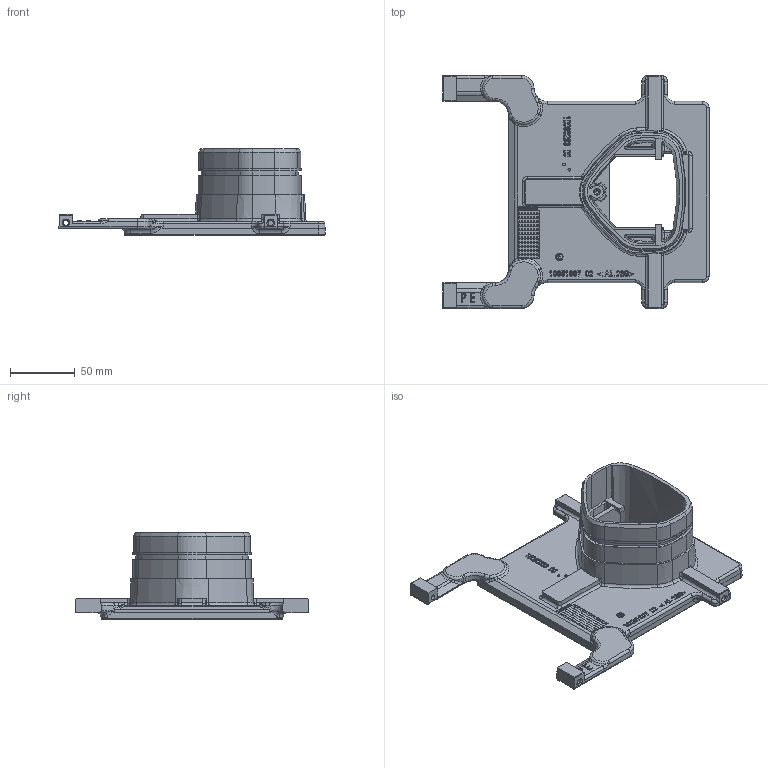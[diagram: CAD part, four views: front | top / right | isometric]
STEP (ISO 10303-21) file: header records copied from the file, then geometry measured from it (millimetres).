
FILE_DESCRIPTION(('CATIA V5 STEP 214'),'2;1');
FILE_NAME('C:\Temp\ddxv6\147930\10080233-1-0000B.stp','2011-12-07T09:35:12+00:00',('Leopold Kostal'),('Kostal GmbH'),'CATIA Version 5 Release 19 SP 8 (IN-10)','CATIA V5 STEP AP214','none');
FILE_SCHEMA(('AUTOMOTIVE_DESIGN { 1 0 10303 214 1 1 1 1 }'));
Products named in the file (1): 10080233-1-0000B
Bounding box: 205.38 x 179.89 x 66.5 mm (x, y, z)
Volume: 329794.7 mm3; surface area: 93864.6 mm2
Topology: 23 solids, 23 shells, 2024 faces, 5553 edges, 3603 vertices
Faces by surface type: plane 942, extrusion 572, cylinder 251, torus 99, bspline 74, cone 70, sphere 16
Entity records: 68563 total; most frequent: CARTESIAN_POINT 23115, ORIENTED_EDGE 11058, DIRECTION 6070, EDGE_CURVE 5529, VECTOR 3713, VERTEX_POINT 3603, LINE 3141, EDGE_LOOP 2280
